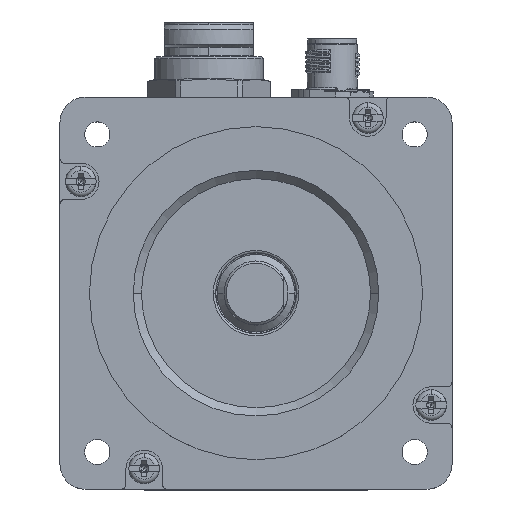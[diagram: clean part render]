
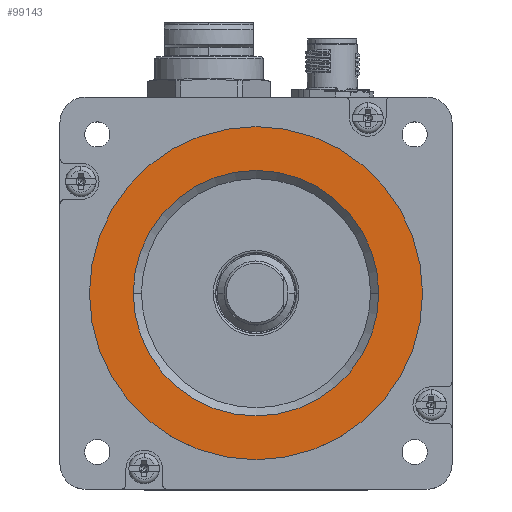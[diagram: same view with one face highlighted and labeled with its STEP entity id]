
A CAD part, top view. The second image highlights one B-rep face of the part: STEP entity #99143.
In plain terms, the highlighted planar face has unit normal (0, 0, 1).
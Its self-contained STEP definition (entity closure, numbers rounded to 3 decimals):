
#1113 = CIRCLE ( 'NONE', #41579, 26.9 ) ;
#2169 = EDGE_CURVE ( 'NONE', #48901, #89739, #1113, .T. ) ;
#3292 = EDGE_LOOP ( 'NONE', ( #59500, #41223 ) ) ;
#7811 = CARTESIAN_POINT ( 'NONE',  ( 0., 0., 0. ) ) ;
#18221 = CARTESIAN_POINT ( 'NONE',  ( -37.45, -37.45, 0. ) ) ;
#18273 = DIRECTION ( 'NONE',  ( 0., 0., 1. ) ) ;
#18803 = DIRECTION ( 'NONE',  ( 1., 0., 0. ) ) ;
#21505 = DIRECTION ( 'NONE',  ( 1., 0., 0. ) ) ;
#24772 = EDGE_LOOP ( 'NONE', ( #34945, #94724 ) ) ;
#33154 = DIRECTION ( 'NONE',  ( 1., 0., 0. ) ) ;
#34945 = ORIENTED_EDGE ( 'NONE', *, *, #65544, .T. ) ;
#35723 = PLANE ( 'NONE',  #99283 ) ;
#36912 = CIRCLE ( 'NONE', #95690, 26.9 ) ;
#40070 = CARTESIAN_POINT ( 'NONE',  ( 36.5, 0., 0. ) ) ;
#41223 = ORIENTED_EDGE ( 'NONE', *, *, #2169, .T. ) ;
#41579 = AXIS2_PLACEMENT_3D ( 'NONE', #7811, #46889, #95798 ) ;
#42048 = CARTESIAN_POINT ( 'NONE',  ( 0., 0., 0. ) ) ;
#42668 = CARTESIAN_POINT ( 'NONE',  ( 0., 0., 0. ) ) ;
#44217 = DIRECTION ( 'NONE',  ( 0., 0., 1. ) ) ;
#44354 = AXIS2_PLACEMENT_3D ( 'NONE', #42668, #44217, #21505 ) ;
#46889 = DIRECTION ( 'NONE',  ( 0., 0., -1. ) ) ;
#46950 = CIRCLE ( 'NONE', #83891, 36.5 ) ;
#48901 = VERTEX_POINT ( 'NONE', #83527 ) ;
#52013 = DIRECTION ( 'NONE',  ( 0., 0., 1. ) ) ;
#56978 = FACE_BOUND ( 'NONE', #3292, .T. ) ;
#57918 = CARTESIAN_POINT ( 'NONE',  ( 0., 0., 0. ) ) ;
#59500 = ORIENTED_EDGE ( 'NONE', *, *, #60244, .T. ) ;
#59529 = CIRCLE ( 'NONE', #44354, 36.5 ) ;
#60133 = EDGE_CURVE ( 'NONE', #78699, #75529, #46950, .T. ) ;
#60244 = EDGE_CURVE ( 'NONE', #89739, #48901, #36912, .T. ) ;
#60284 = CARTESIAN_POINT ( 'NONE',  ( -36.5, 0., 0. ) ) ;
#65544 = EDGE_CURVE ( 'NONE', #75529, #78699, #59529, .T. ) ;
#74640 = FACE_OUTER_BOUND ( 'NONE', #24772, .T. ) ;
#75529 = VERTEX_POINT ( 'NONE', #40070 ) ;
#78699 = VERTEX_POINT ( 'NONE', #60284 ) ;
#83527 = CARTESIAN_POINT ( 'NONE',  ( -26.9, 0., 0. ) ) ;
#83891 = AXIS2_PLACEMENT_3D ( 'NONE', #42048, #18273, #33154 ) ;
#84593 = DIRECTION ( 'NONE',  ( 1., 0., 0. ) ) ;
#89739 = VERTEX_POINT ( 'NONE', #104317 ) ;
#90957 = DIRECTION ( 'NONE',  ( 0., 0., -1. ) ) ;
#94724 = ORIENTED_EDGE ( 'NONE', *, *, #60133, .T. ) ;
#95690 = AXIS2_PLACEMENT_3D ( 'NONE', #57918, #90957, #18803 ) ;
#95798 = DIRECTION ( 'NONE',  ( 1., 0., 0. ) ) ;
#99143 = ADVANCED_FACE ( 'NONE', ( #56978, #74640 ), #35723, .T. ) ;
#99283 = AXIS2_PLACEMENT_3D ( 'NONE', #18221, #52013, #84593 ) ;
#104317 = CARTESIAN_POINT ( 'NONE',  ( 26.9, 0., 0. ) ) ;
